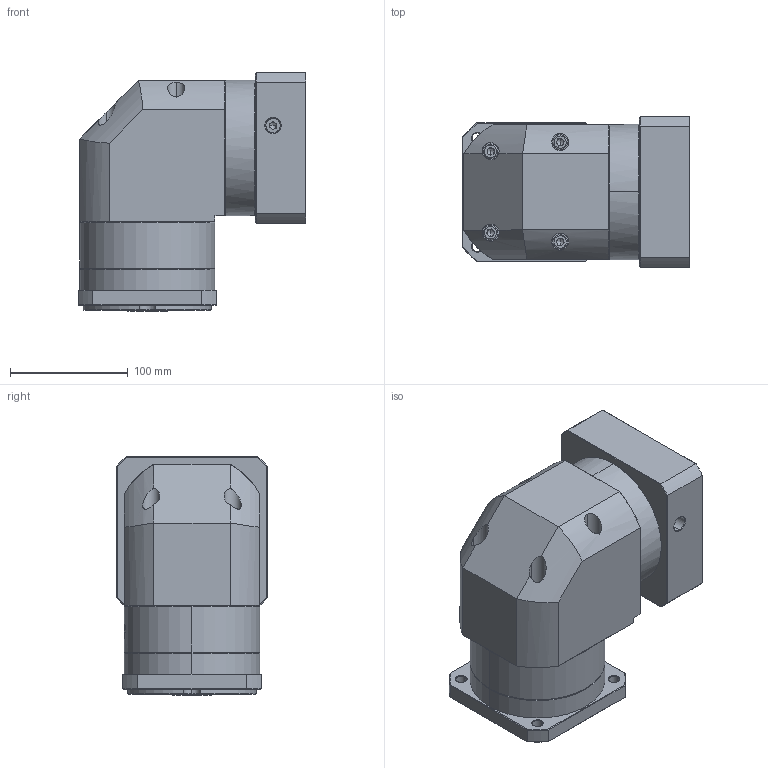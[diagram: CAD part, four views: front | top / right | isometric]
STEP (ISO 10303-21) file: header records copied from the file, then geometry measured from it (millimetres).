
FILE_DESCRIPTION (( 'STEP AP214' ), '1' );
FILE_NAME ('ZFR120A-K25-L1-P2-19-110-145-M8.step', '2023-08-27T08:12:34', ( '' ), ( '' ), 'SwSTEP 2.0', 'SolidWorks 2016', '' );
FILE_SCHEMA (( 'AUTOMOTIVE_DESIGN' ));
Length unit declared in the file: millimetre
Products named in the file (1): ZFR120A-K25-L1-P2-19-110-145-M8
Bounding box: 193.9 x 128 x 203 mm (x, y, z)
Volume: 2932602 mm3; surface area: 249976.6 mm2
Topology: 6 solids, 6 shells, 2209 faces, 5821 edges, 3717 vertices
Faces by surface type: plane 1054, bspline 416, cylinder 401, cone 330, torus 8
Entity records: 118665 total; most frequent: CARTESIAN_POINT 45101, ORIENTED_EDGE 11586, DIRECTION 8413, EDGE_CURVE 5793, VERTEX_POINT 3717, LINE 3105, VECTOR 3105, AXIS2_PLACEMENT_3D 2654
